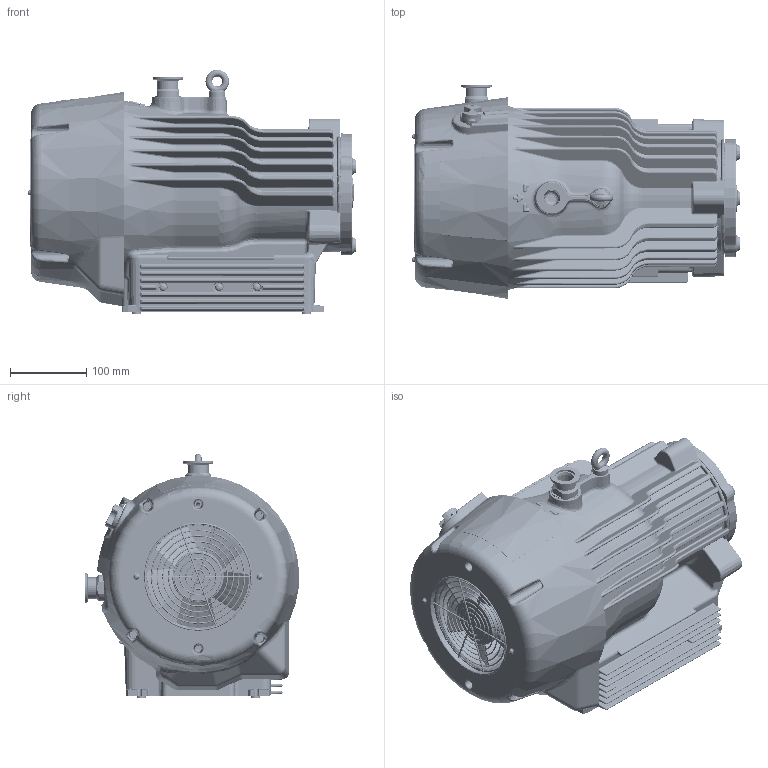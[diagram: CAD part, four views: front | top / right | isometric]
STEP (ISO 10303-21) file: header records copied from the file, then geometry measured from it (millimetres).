
FILE_DESCRIPTION(('CATIA V5 STEP Exchange'),'2;1');
FILE_NAME('C:\Users\milnerp\OneDrive - Edwards Vacuum\Documents for release\SCROLL Synergy\141007V10-10.stp','2017-07-31T13:54:43+00:00',('none'),('none'),'CATIA Version 5-6 Release 2014 SP6','CATIA V5 STEP AP203','none');
FILE_SCHEMA(('CONFIG_CONTROL_DESIGN'));
Products named in the file (1): 141007V10-10
Bounding box: 431.96 x 281.92 x 321.8 mm (x, y, z)
Volume: 4197880.3 mm3; surface area: 1264643.7 mm2
Topology: 36 solids, 36 shells, 5467 faces, 13216 edges, 7693 vertices
Faces by surface type: cylinder 1400, bspline 1395, plane 1240, torus 812, cone 376, sphere 171, revolution 67, extrusion 6
Entity records: 273074 total; most frequent: CARTESIAN_POINT 166690, ORIENTED_EDGE 25954, DIRECTION 14104, EDGE_CURVE 12977, VERTEX_POINT 7693, AXIS2_PLACEMENT_3D 7324, EDGE_LOOP 5736, B_SPLINE_CURVE_WITH_KNOTS 5472
